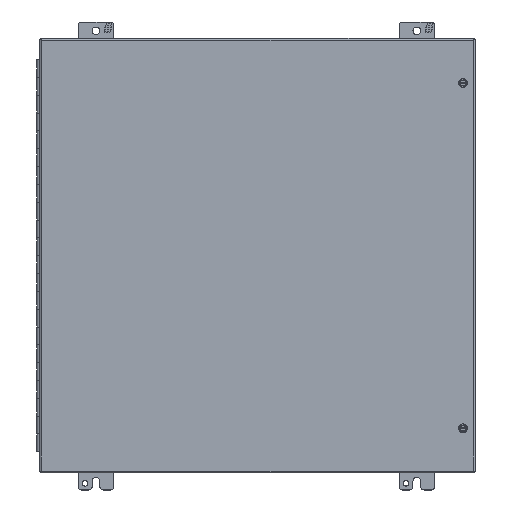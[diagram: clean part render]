
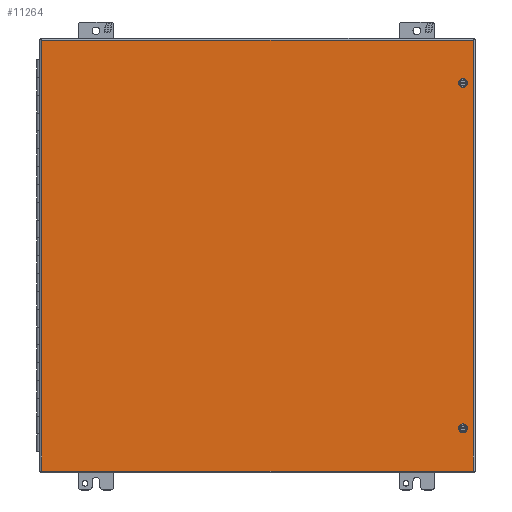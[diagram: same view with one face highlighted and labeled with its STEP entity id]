
A CAD part, top view. The second image highlights one B-rep face of the part: STEP entity #11264.
In plain terms, the highlighted planar face has unit normal (0, 0, 1) as drawn and (0, -1, 0) by its records, which use the part's own axes.
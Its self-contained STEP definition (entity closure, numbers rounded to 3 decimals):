
#837=CIRCLE('',#12167,3.378);
#838=CIRCLE('',#12168,3.378);
#2177=ORIENTED_EDGE('',*,*,#4792,.F.);
#2178=ORIENTED_EDGE('',*,*,#4793,.F.);
#2179=ORIENTED_EDGE('',*,*,#4794,.T.);
#2180=ORIENTED_EDGE('',*,*,#4795,.T.);
#2181=ORIENTED_EDGE('',*,*,#4796,.T.);
#2182=ORIENTED_EDGE('',*,*,#4797,.T.);
#4792=EDGE_CURVE('',#6187,#6187,#837,.T.);
#4793=EDGE_CURVE('',#6188,#6188,#838,.T.);
#4794=EDGE_CURVE('',#6189,#6190,#7301,.T.);
#4795=EDGE_CURVE('',#6190,#6191,#7302,.T.);
#4796=EDGE_CURVE('',#6191,#6192,#7303,.T.);
#4797=EDGE_CURVE('',#6192,#6189,#7304,.T.);
#6187=VERTEX_POINT('',#17128);
#6188=VERTEX_POINT('',#17130);
#6189=VERTEX_POINT('',#17132);
#6190=VERTEX_POINT('',#17133);
#6191=VERTEX_POINT('',#17135);
#6192=VERTEX_POINT('',#17137);
#7301=LINE('',#17131,#8421);
#7302=LINE('',#17134,#8422);
#7303=LINE('',#17136,#8423);
#7304=LINE('',#17138,#8424);
#8421=VECTOR('',#13995,1000.);
#8422=VECTOR('',#13996,1000.);
#8423=VECTOR('',#13997,1000.);
#8424=VECTOR('',#13998,1000.);
#9348=EDGE_LOOP('',(#2177));
#9349=EDGE_LOOP('',(#2178));
#9350=EDGE_LOOP('',(#2179,#2180,#2181,#2182));
#10094=FACE_BOUND('',#9348,.T.);
#10095=FACE_BOUND('',#9349,.T.);
#10096=FACE_BOUND('',#9350,.T.);
#10754=PLANE('',#12166);
#11264=ADVANCED_FACE('',(#10094,#10095,#10096),#10754,.T.);
#12166=AXIS2_PLACEMENT_3D('',#17126,#13989,#13990);
#12167=AXIS2_PLACEMENT_3D('',#17127,#13991,#13992);
#12168=AXIS2_PLACEMENT_3D('',#17129,#13993,#13994);
#13989=DIRECTION('',(0.,-1.,0.));
#13990=DIRECTION('',(0.,0.,-1.));
#13991=DIRECTION('',(0.,-1.,0.));
#13992=DIRECTION('',(1.,0.,0.));
#13993=DIRECTION('',(0.,-1.,0.));
#13994=DIRECTION('',(1.,0.,0.));
#13995=DIRECTION('',(0.,0.,-1.));
#13996=DIRECTION('',(1.,0.,0.));
#13997=DIRECTION('',(0.,0.,1.));
#13998=DIRECTION('',(-1.,0.,0.));
#17126=CARTESIAN_POINT('',(-307.619,0.,-306.819));
#17127=CARTESIAN_POINT('',(292.887,0.,-246.037));
#17128=CARTESIAN_POINT('',(296.266,0.,-246.037));
#17129=CARTESIAN_POINT('',(292.887,0.,246.037));
#17130=CARTESIAN_POINT('',(296.266,0.,246.037));
#17131=CARTESIAN_POINT('',(-307.619,0.,306.819));
#17132=CARTESIAN_POINT('',(-307.619,0.,306.819));
#17133=CARTESIAN_POINT('',(-307.619,0.,-306.819));
#17134=CARTESIAN_POINT('',(-307.619,0.,-306.819));
#17135=CARTESIAN_POINT('',(307.619,0.,-306.819));
#17136=CARTESIAN_POINT('',(307.619,0.,-306.819));
#17137=CARTESIAN_POINT('',(307.619,0.,306.819));
#17138=CARTESIAN_POINT('',(307.619,0.,306.819));
